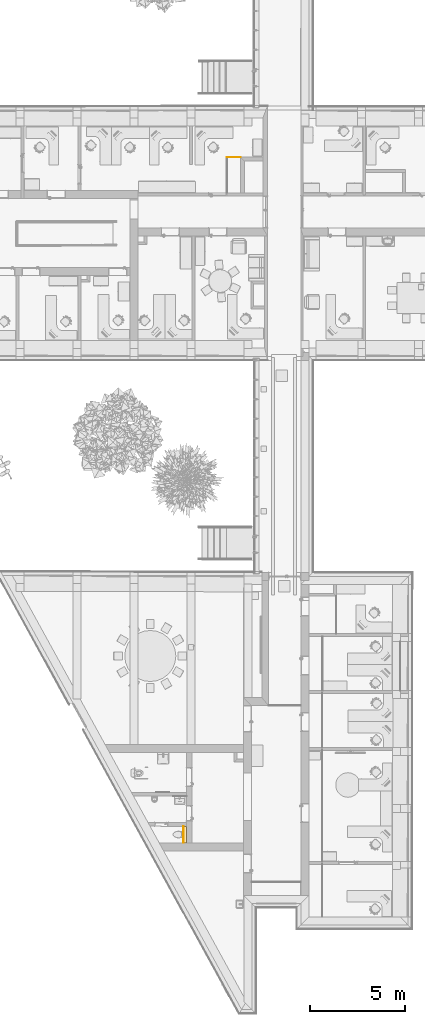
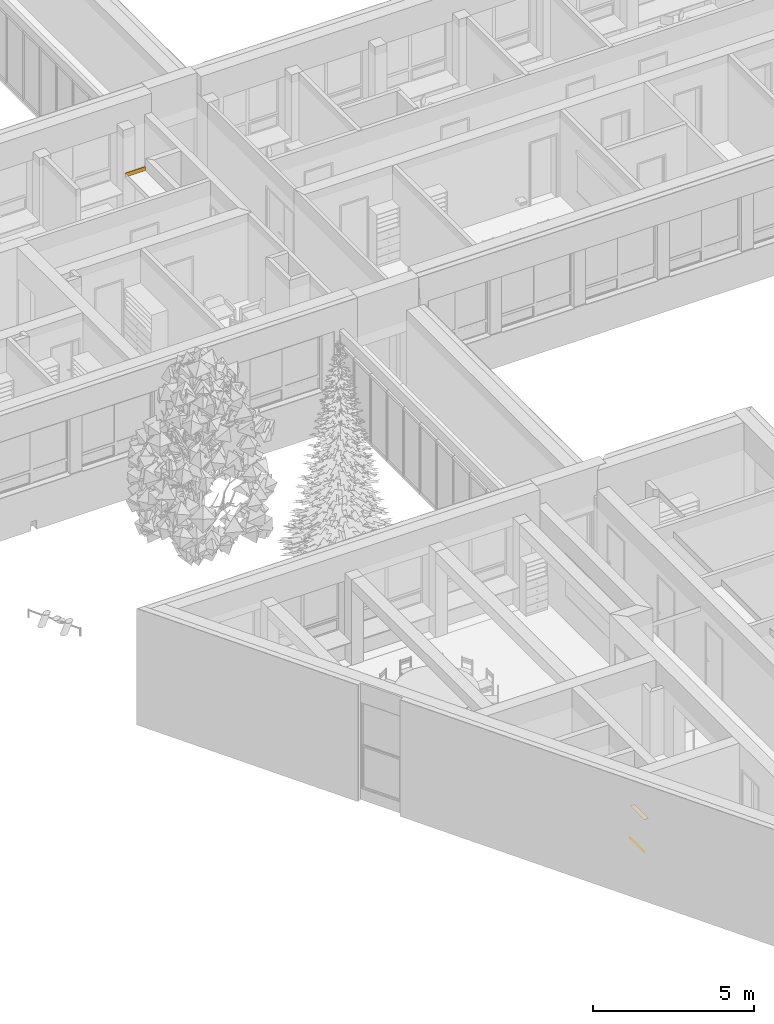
# One storey, part 110 of 194: 3 coverings.
"""IFC2X3 building model written with IfcOpenShell, lengths in millimetres."""

from ifc_helpers import new_model, entity, si_unit, converted_unit, derived_unit, money_unit, direction, frame, origin_with_axes, place, context, subcontext, project, spatial, polyline, outline, extrude, material, type_object, element, save


model = new_model("IFC2X3")

# Units and contexts
model_context = context("Model", 3, precision=1e-05, world=origin_with_axes(), true_north=direction((0.0, 1.0)))
body_context = subcontext(model_context, "Body", "Model", "MODEL_VIEW")
ifc_project = project(units=[si_unit("LENGTHUNIT", "METRE", prefix="MILLI"), si_unit("AREAUNIT", "SQUARE_METRE"), si_unit("VOLUMEUNIT", "CUBIC_METRE"), converted_unit("PLANEANGLEUNIT", "DEGREE", entity("IfcPlaneAngleMeasure", 0.0174532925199), si_unit("PLANEANGLEUNIT", "RADIAN"), dimensions=[0, 0, 0, 0, 0, 0, 0]), si_unit("SOLIDANGLEUNIT", "STERADIAN"), money_unit("EUR"), converted_unit("TIMEUNIT", "Year", entity("IfcTimeMeasure", 31556926.0), si_unit("TIMEUNIT", "SECOND"), dimensions=[0, 0, 1, 0, 0, 0, 0]), si_unit("MASSUNIT", "GRAM", prefix="KILO"), si_unit("THERMODYNAMICTEMPERATUREUNIT", "DEGREE_CELSIUS"), si_unit("LUMINOUSINTENSITYUNIT", "LUMEN"), si_unit("ENERGYUNIT", "JOULE", prefix="MEGA"), derived_unit("THERMALCONDUCTANCEUNIT", [(si_unit("POWERUNIT", "WATT"), 1), (si_unit("LENGTHUNIT", "METRE"), -1), (si_unit("THERMODYNAMICTEMPERATUREUNIT", "KELVIN"), -1)]), derived_unit("SPECIFICHEATCAPACITYUNIT", [(si_unit("ENERGYUNIT", "JOULE"), 1), (si_unit("MASSUNIT", "GRAM", prefix="KILO"), -1), (si_unit("THERMODYNAMICTEMPERATUREUNIT", "KELVIN"), -1)]), derived_unit("MASSDENSITYUNIT", [(si_unit("MASSUNIT", "GRAM", prefix="KILO"), 1), (si_unit("VOLUMEUNIT", "CUBIC_METRE"), -1)])], contexts=[model_context])

# Site, building, storey
site_placement = place(None, origin_with_axes())
site = spatial("IfcSite", under=ifc_project, at=site_placement, Name="Site", CompositionType="ELEMENT")
building_placement = place(site_placement, origin_with_axes())
building = spatial("IfcBuilding", under=site, at=building_placement, Name="Building", CompositionType="ELEMENT")
storey_placement = place(building_placement, frame((0.0, 0.0, 3000.0), z_axis=(0.0, 0.0, 1.0), x_axis=(1.0, 0.0, 0.0)))
storey = spatial("IfcBuildingStorey", under=building, at=storey_placement, Name="2 KORRUS", CompositionType="ELEMENT", Elevation=3000.0)

# Coverings
ifc_material_1 = material(Name="Betoon - Ol.Olev konstruktsioon")
covering_type_1 = type_object("IfcCoveringType", Name="P-3", PredefinedType="NOTDEFINED")
covering_1_placement = place(storey_placement, frame((33567.5084596, 9596.11006224, 0.0), z_axis=(0.0, 0.0, 1.0), x_axis=(1.0, 0.0, 0.0)))
element("IfcCovering", 1, at=covering_1_placement, inside=storey, type_object=covering_type_1, material=ifc_material_1, Name="Betoon - Ol.Olev konstruktsioon", PredefinedType="NOTDEFINED", context=body_context, shape_type="SweptSolid", body=[
    extrude(outline(polyline([(0.0, 0.0), (-10.3082116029, 0.0), (-10.3082116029, -872.581266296), (0.0, -872.581266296), (0.0, 0.0)])), frame((0.0, 0.0, -20.0), z_axis=(0.0, 0.0, 1.0), x_axis=(1.0, 0.0, 0.0)), (0.0, 0.0, 1.0), 20.0),
])
ifc_material_2 = material(Name="Kipsplaat")
covering_type_2 = type_object("IfcCoveringType", Name="Kips", PredefinedType="CEILING")
covering_2_placement = place(storey_placement, frame((36562.6842923, 44838.6870986, 2796.99245488), z_axis=(0.0, 0.0, 1.0), x_axis=(-1.0, 1.18330555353e-08, 0.0)))
element("IfcCovering", 2, at=covering_2_placement, inside=storey, type_object=covering_type_2, material=ifc_material_2, Name="Kipsplaat", PredefinedType="CEILING", context=body_context, shape_type="SweptSolid", body=[
    extrude(outline(polyline([(0.0, 0.0), (726.178113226, 0.0), (713.178113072, 12.9999999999), (-1.53818291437e-07, 12.9999999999), (0.0, 0.0)])), origin_with_axes(), (0.0, 0.0, 1.0), 153.007545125),
])
covering_type_3 = type_object("IfcCoveringType", Name="loputuskasti raam", PredefinedType="NOTDEFINED")
covering_3_placement = place(storey_placement, frame((33554.5084509, 9596.11004408, 1200.0), z_axis=(0.0, 0.0, 1.0), x_axis=(1.0, 0.0, 0.0)))
element("IfcCovering", 3, at=covering_3_placement, inside=storey, type_object=covering_type_3, material=ifc_material_1, Name="Betoon - Ol.Olev konstruktsioon", PredefinedType="NOTDEFINED", context=body_context, shape_type="SweptSolid", body=[
    extrude(outline(polyline([(0.0, 0.0), (0.0, -872.581248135), (163.0, -872.581248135), (163.0, 0.0), (0.0, 0.0)])), frame((0.0, 0.0, -2.0), z_axis=(0.0, 0.0, 1.0), x_axis=(1.0, 0.0, 0.0)), (0.0, 0.0, 1.0), 2.0),
])

save(model, "model.ifc")
